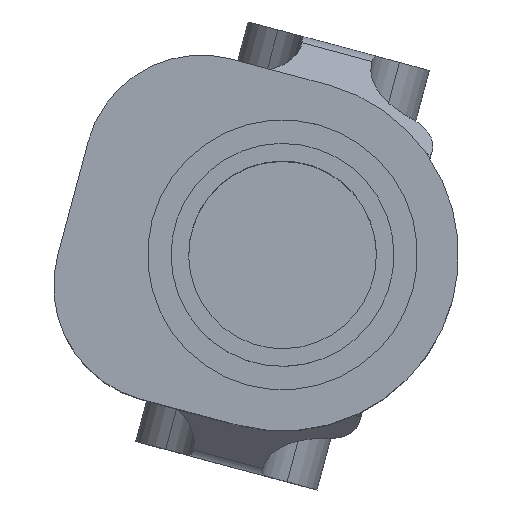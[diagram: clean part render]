
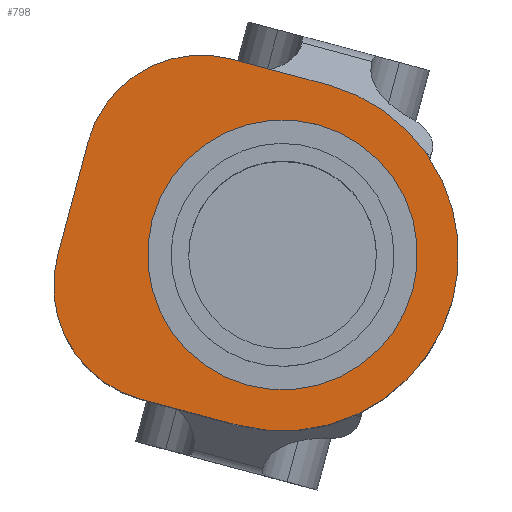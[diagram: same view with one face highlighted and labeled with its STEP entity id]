
A CAD part, top view. The second image highlights one B-rep face of the part: STEP entity #798.
In plain terms, the highlighted planar face has unit normal (0, 0, 1).
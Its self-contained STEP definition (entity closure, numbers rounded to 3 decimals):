
#95 = CARTESIAN_POINT ( 'NONE',  ( 53.623, 44.993, 14.78 ) ) ;
#130 = LINE ( 'NONE', #2359, #1455 ) ;
#158 = AXIS2_PLACEMENT_3D ( 'NONE', #835, #1957, #1355 ) ;
#237 = ORIENTED_EDGE ( 'NONE', *, *, #2445, .T. ) ;
#410 = AXIS2_PLACEMENT_3D ( 'NONE', #1610, #2738, #1328 ) ;
#423 = CARTESIAN_POINT ( 'NONE',  ( 37.046, 54.608, 14.78 ) ) ;
#472 = VERTEX_POINT ( 'NONE', #2556 ) ;
#522 = CARTESIAN_POINT ( 'NONE',  ( 49.744, 30.503, 14.78 ) ) ;
#569 = DIRECTION ( 'NONE',  ( 0., 0., 1. ) ) ;
#580 = VERTEX_POINT ( 'NONE', #3379 ) ;
#702 = CIRCLE ( 'NONE', #410, 10. ) ;
#798 = ADVANCED_FACE ( 'NONE', ( #1885, #2069 ), #2661, .T. ) ;
#800 = ORIENTED_EDGE ( 'NONE', *, *, #2946, .T. ) ;
#835 = CARTESIAN_POINT ( 'NONE',  ( 44.119, 42.362, 14.78 ) ) ;
#870 = AXIS2_PLACEMENT_3D ( 'NONE', #901, #2604, #2568 ) ;
#901 = CARTESIAN_POINT ( 'NONE',  ( 53.623, 44.993, 14.78 ) ) ;
#921 = DIRECTION ( 'NONE',  ( 0., 0., 1. ) ) ;
#975 = LINE ( 'NONE', #1797, #1039 ) ;
#1039 = VECTOR ( 'NONE', #1194, 1000. ) ;
#1078 = CARTESIAN_POINT ( 'NONE',  ( 41.533, 32.702, 14.78 ) ) ;
#1194 = DIRECTION ( 'NONE',  ( -0.966, 0.259, 0. ) ) ;
#1216 = EDGE_CURVE ( 'NONE', #3041, #472, #2917, .T. ) ;
#1250 = DIRECTION ( 'NONE',  ( 0.259, 0.966, 0. ) ) ;
#1324 = CIRCLE ( 'NONE', #2915, 15. ) ;
#1328 = DIRECTION ( 'NONE',  ( -0.259, -0.966, 0. ) ) ;
#1340 = CARTESIAN_POINT ( 'NONE',  ( 34.304, 50.166, 14.78 ) ) ;
#1355 = DIRECTION ( 'NONE',  ( 0.259, 0.966, 0. ) ) ;
#1383 = ORIENTED_EDGE ( 'NONE', *, *, #1216, .T. ) ;
#1393 = DIRECTION ( 'NONE',  ( 0.259, 0.966, 0. ) ) ;
#1395 = CIRCLE ( 'NONE', #3564, 11.5 ) ;
#1455 = VECTOR ( 'NONE', #2029, 1000. ) ;
#1466 = ORIENTED_EDGE ( 'NONE', *, *, #2403, .T. ) ;
#1554 = ORIENTED_EDGE ( 'NONE', *, *, #1734, .T. ) ;
#1590 = ORIENTED_EDGE ( 'NONE', *, *, #3429, .T. ) ;
#1610 = CARTESIAN_POINT ( 'NONE',  ( 46.705, 52.021, 14.78 ) ) ;
#1734 = EDGE_CURVE ( 'NONE', #2741, #1736, #2969, .T. ) ;
#1736 = VERTEX_POINT ( 'NONE', #1829 ) ;
#1743 = CIRCLE ( 'NONE', #158, 10. ) ;
#1757 = DIRECTION ( 'NONE',  ( -0.259, -0.966, 0. ) ) ;
#1768 = CARTESIAN_POINT ( 'NONE',  ( 49.292, 61.681, 14.78 ) ) ;
#1797 = CARTESIAN_POINT ( 'NONE',  ( 57.503, 59.483, 14.78 ) ) ;
#1829 = CARTESIAN_POINT ( 'NONE',  ( 34.459, 44.948, 14.78 ) ) ;
#1885 = FACE_BOUND ( 'NONE', #2188, .T. ) ;
#1957 = DIRECTION ( 'NONE',  ( 0., 0., 1. ) ) ;
#1999 = ORIENTED_EDGE ( 'NONE', *, *, #3174, .T. ) ;
#2002 = VERTEX_POINT ( 'NONE', #522 ) ;
#2029 = DIRECTION ( 'NONE',  ( 0.966, -0.259, 0. ) ) ;
#2032 = VECTOR ( 'NONE', #2059, 1000. ) ;
#2059 = DIRECTION ( 'NONE',  ( -0.259, -0.966, 0. ) ) ;
#2069 = FACE_OUTER_BOUND ( 'NONE', #2698, .T. ) ;
#2131 = CARTESIAN_POINT ( 'NONE',  ( 37.046, 54.608, 14.78 ) ) ;
#2188 = EDGE_LOOP ( 'NONE', ( #1383, #800 ) ) ;
#2311 = DIRECTION ( 'NONE',  ( 0., 0., -1. ) ) ;
#2359 = CARTESIAN_POINT ( 'NONE',  ( 49.744, 30.503, 14.78 ) ) ;
#2364 = EDGE_CURVE ( 'NONE', #1736, #3428, #1743, .T. ) ;
#2403 = EDGE_CURVE ( 'NONE', #2002, #580, #1324, .T. ) ;
#2445 = EDGE_CURVE ( 'NONE', #580, #3217, #975, .T. ) ;
#2556 = CARTESIAN_POINT ( 'NONE',  ( 50.649, 33.884, 14.78 ) ) ;
#2568 = DIRECTION ( 'NONE',  ( -0.259, -0.966, 0. ) ) ;
#2590 = CARTESIAN_POINT ( 'NONE',  ( 53.623, 44.993, 14.78 ) ) ;
#2604 = DIRECTION ( 'NONE',  ( 0., 0., -1. ) ) ;
#2652 = ORIENTED_EDGE ( 'NONE', *, *, #2364, .T. ) ;
#2661 = PLANE ( 'NONE',  #2960 ) ;
#2698 = EDGE_LOOP ( 'NONE', ( #1999, #1466, #237, #1590, #1554, #2652 ) ) ;
#2738 = DIRECTION ( 'NONE',  ( 0., 0., 1. ) ) ;
#2741 = VERTEX_POINT ( 'NONE', #2131 ) ;
#2915 = AXIS2_PLACEMENT_3D ( 'NONE', #2590, #921, #1250 ) ;
#2917 = CIRCLE ( 'NONE', #870, 11.5 ) ;
#2946 = EDGE_CURVE ( 'NONE', #472, #3041, #1395, .T. ) ;
#2960 = AXIS2_PLACEMENT_3D ( 'NONE', #1340, #569, #1393 ) ;
#2969 = LINE ( 'NONE', #423, #2032 ) ;
#3041 = VERTEX_POINT ( 'NONE', #3561 ) ;
#3174 = EDGE_CURVE ( 'NONE', #3428, #2002, #130, .T. ) ;
#3217 = VERTEX_POINT ( 'NONE', #1768 ) ;
#3379 = CARTESIAN_POINT ( 'NONE',  ( 57.503, 59.483, 14.78 ) ) ;
#3428 = VERTEX_POINT ( 'NONE', #1078 ) ;
#3429 = EDGE_CURVE ( 'NONE', #3217, #2741, #702, .T. ) ;
#3561 = CARTESIAN_POINT ( 'NONE',  ( 56.597, 56.102, 14.78 ) ) ;
#3564 = AXIS2_PLACEMENT_3D ( 'NONE', #95, #2311, #1757 ) ;
